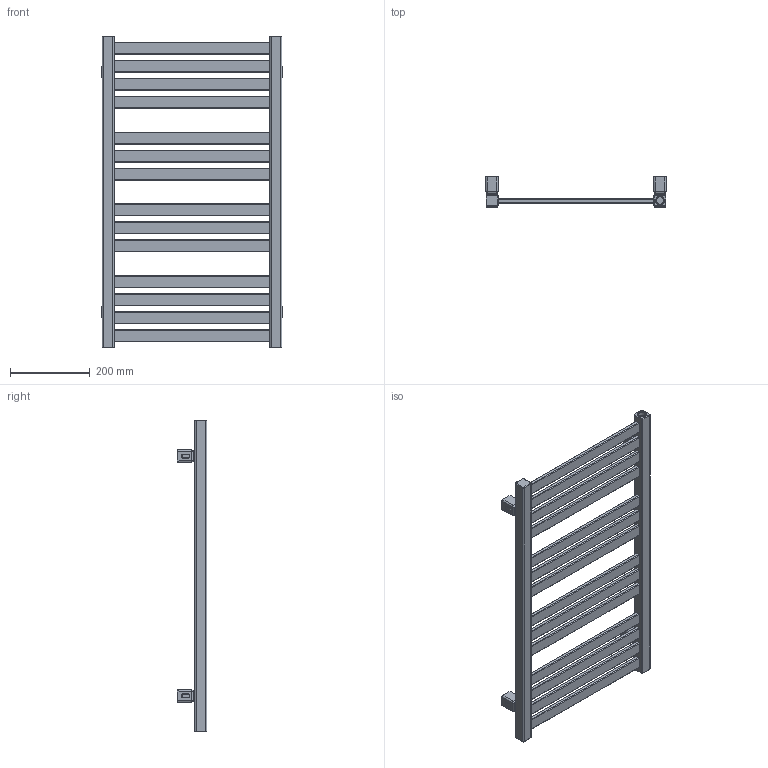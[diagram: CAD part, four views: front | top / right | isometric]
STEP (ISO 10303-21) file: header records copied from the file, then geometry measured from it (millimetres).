
FILE_DESCRIPTION((''),'2;1');
FILE_NAME('Z:\R\G\P\RGPH09 - Grzejnik Marlin\Work\Inventor\Grzejnik Marlin v3.0\Marketing\AutoCad 3D\MR-780-450-SX_MKT.stp','2012-07-25T08:16:04',('PioRo'),(''),'Autodesk Inventor 2012','Autodesk Inventor 2012','');
FILE_SCHEMA(('AUTOMOTIVE_DESIGN { 1 0 10303 214 1 1 1 1 }'));
Length unit declared in the file: millimetre
Products named in the file (3): MR-780-450-SX_MKT; MKT42-00-A v0.2
Assembly tree (5 placements, depth 2):
  MR-780-450-SX_MKT
    MR-780-450-SX_MKT
    MKT42-00-A v0.2  x4
Bounding box: 453.98 x 74.5 x 780 mm (x, y, z)
Volume: 3168727.5 mm3; surface area: 631706.3 mm2
Topology: 5 solids, 5 shells, 449 faces, 1123 edges, 713 vertices
Faces by surface type: cylinder 191, plane 183, bspline 60, torus 11, cone 4
Full cylindrical faces by diameter (mm): 4.134 x4, 10 x4, 12 x4, 18.631 x3
Entity records: 9021 total; most frequent: CARTESIAN_POINT 2655, DIRECTION 1344, ORIENTED_EDGE 1262, EDGE_CURVE 631, AXIS2_PLACEMENT_3D 496, VERTEX_POINT 415, VECTOR 352, LINE 352
